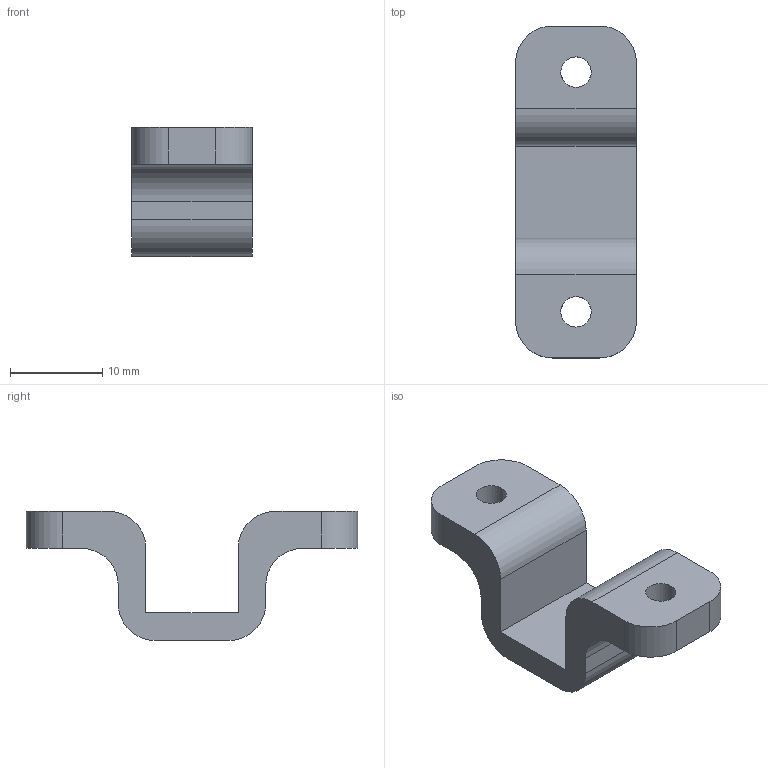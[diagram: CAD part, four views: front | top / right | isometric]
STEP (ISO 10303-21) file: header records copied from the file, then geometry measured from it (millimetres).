
FILE_DESCRIPTION(/* description */ ('STEP AP242 Edition 2','CAx-IF Rec.Pracs.---Representation and Presentation of Product Manufacturing Information (PMI)---4.0---2014-10-13','CAx-IF Rec.Pracs.---3D Tessellated Geometry---0.4---2014-09-14','2;1','CAx-IF Rec.Pracs.---User Defined Attributes---1.5---2016-08-15'),/* implementation_level */ '2;1');
FILE_NAME(/* name */ 'Part Studio 1 - Gear Motor Clamp',/* time_stamp */ '2026-04-09T20:19:24Z',/* author */ (''),/* organization */ (''),/* preprocessor_version */ 'ST-DEVELOPER v20',/* originating_system */ 'ONSHAPE BY PTC INC, 1.213',/* authorisation */ ' ');
FILE_SCHEMA (('AP242_MANAGED_MODEL_BASED_3D_ENGINEERING_MIM_LF { 1 0 10303 442 3 1 4 }'));
Length unit declared in the file: metre
Products named in the file (1): Gear Motor Clamp
Bounding box: 13.1 x 36 x 14 mm (x, y, z)
Volume: 2328 mm3; surface area: 1831.5 mm2
Topology: 1 solids, 1 shells, 26 faces, 78 edges, 52 vertices
Faces by surface type: plane 14, cylinder 12
Full cylindrical faces by diameter (mm): 3.3 x2
Entity records: 892 total; most frequent: CARTESIAN_POINT 159, DIRECTION 150, ORIENTED_EDGE 148, EDGE_CURVE 74, AXIS2_PLACEMENT_3D 51, VERTEX_POINT 50, LINE 48, VECTOR 48
